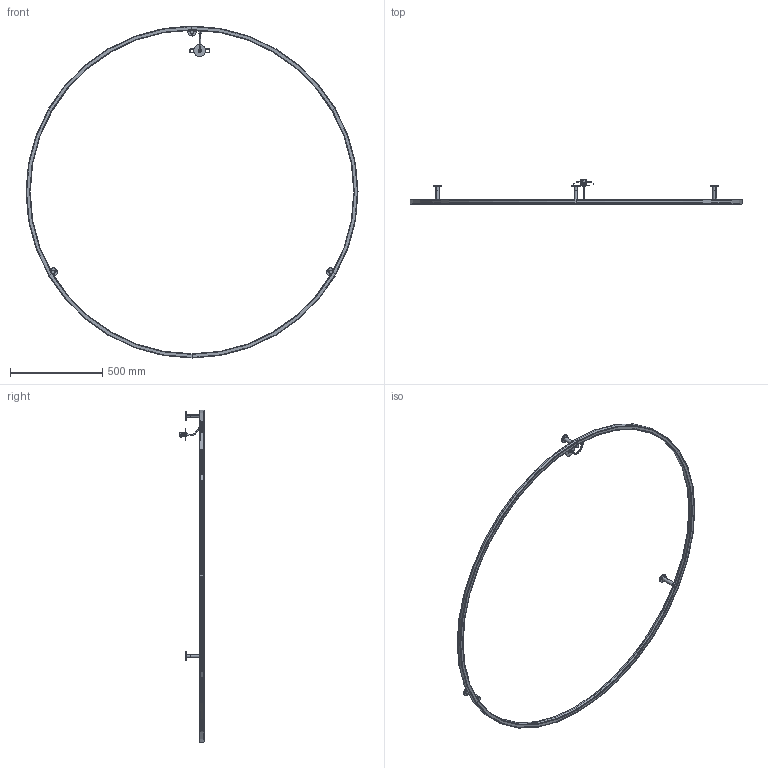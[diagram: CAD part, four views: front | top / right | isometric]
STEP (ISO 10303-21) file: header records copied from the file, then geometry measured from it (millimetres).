
FILE_DESCRIPTION (( 'STEP AP203' ), '1' );
FILE_NAME ('PLULX180XXXXXIN.STEP', '2025-11-17T14:43:50', ( '' ), ( '' ), 'SwSTEP 2.0', 'SolidWorks 2024', '' );
FILE_SCHEMA (( 'CONFIG_CONTROL_DESIGN' ));
Length unit declared in the file: millimetre
Products named in the file (12): PLULX180XXXXXIN; MROULIANELINBC; WSCM2D0032-0700-00; WSCP2F0011-0403-00; ASSIEME ANELLO 180 MODULI LED; TANG YAO-7727-P415 + RIV TESSILE 33- PER ANELLI-PER INCASSO; WSCM2A0028-0700-01; ACPLULA100XXXXX; PLULA180LEDANXX; WSCM2A0030-0700-01; WSCM2A0022-0700-00; WSA5068-03-6-0-11-
Assembly tree (18 placements, depth 4):
  PLULX180XXXXXIN
    PLULA180LEDANXX
      ASSIEME ANELLO 180 MODULI LED
        WSCM2D0032-0700-00
        WSCP2F0011-0403-00  x6
        WSCM2A0022-0700-00
      WSA5068-03-6-0-11-
    ACPLULA100XXXXX  x3
      WSCM2A0030-0700-01
      WSCM2A0028-0700-01
    TANG YAO-7727-P415 + RIV TESSILE 33- PER ANELLI-PER INCASSO
    MROULIANELINBC
Bounding box: 1800 x 133.5 x 1800 mm (x, y, z)
Volume: 1647526 mm3; surface area: 1139256 mm2
Topology: 16 solids, 25 shells, 706 faces, 1831 edges, 1151 vertices
Faces by surface type: plane 220, cylinder 206, cone 129, torus 100, bspline 49, sphere 2
Entity records: 32921 total; most frequent: CARTESIAN_POINT 18918, DIRECTION 2677, ORIENTED_EDGE 2523, EDGE_CURVE 1362, AXIS2_PLACEMENT_3D 1055, VERTEX_POINT 875, CIRCLE 568, VECTOR 567
